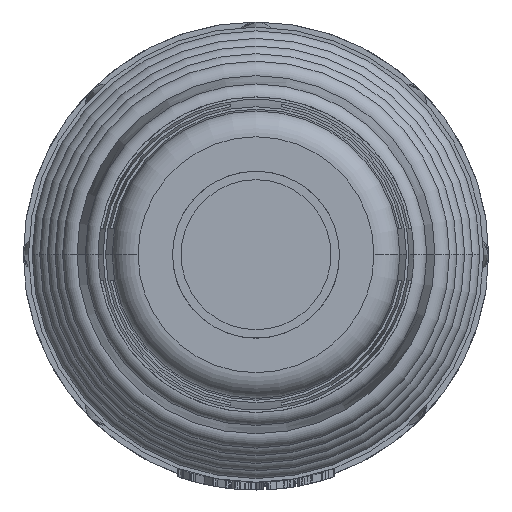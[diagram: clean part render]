
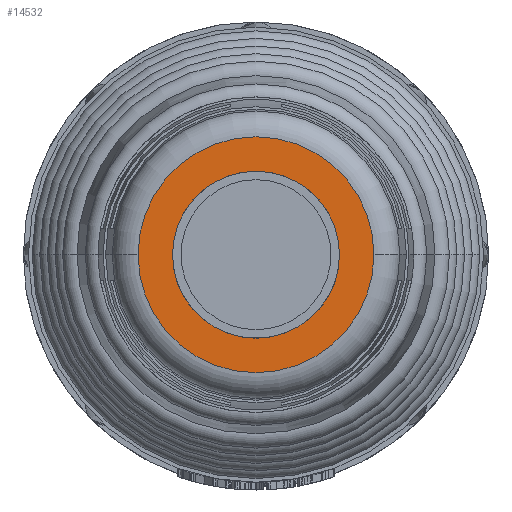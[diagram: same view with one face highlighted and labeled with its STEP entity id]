
A CAD part, front view. The second image highlights one B-rep face of the part: STEP entity #14532.
In plain terms, the highlighted planar face has unit normal (0, -1, 0).
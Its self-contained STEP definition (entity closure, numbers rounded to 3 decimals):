
#1142=CARTESIAN_POINT('',(0.,-54.5,0.));
#1143=DIRECTION('',(0.,-1.,0.));
#1144=DIRECTION('',(1.,0.,0.));
#1145=AXIS2_PLACEMENT_3D('',#1142,#1143,#1144);
#1147=CARTESIAN_POINT('',(0.,-54.5,0.));
#1148=DIRECTION('',(0.,-1.,0.));
#1149=DIRECTION('',(-1.,0.,0.));
#1150=AXIS2_PLACEMENT_3D('',#1147,#1148,#1149);
#1152=CARTESIAN_POINT('',(0.,-54.5,0.));
#1153=DIRECTION('',(0.,-1.,0.));
#1154=DIRECTION('',(-1.,0.,0.));
#1155=AXIS2_PLACEMENT_3D('',#1152,#1153,#1154);
#1157=CARTESIAN_POINT('',(0.,-54.5,0.));
#1158=DIRECTION('',(0.,-1.,0.));
#1159=DIRECTION('',(1.,0.,0.));
#1160=AXIS2_PLACEMENT_3D('',#1157,#1158,#1159);
#12220=CARTESIAN_POINT('',(4.562,-54.5,0.));
#12221=CARTESIAN_POINT('',(-4.562,-54.5,0.));
#12222=VERTEX_POINT('',#12220);
#12223=VERTEX_POINT('',#12221);
#12284=CARTESIAN_POINT('',(-3.23,-54.5,0.));
#12285=CARTESIAN_POINT('',(3.23,-54.5,0.));
#12286=VERTEX_POINT('',#12284);
#12287=VERTEX_POINT('',#12285);
#14516=CARTESIAN_POINT('',(0.,-54.5,0.));
#14517=DIRECTION('',(0.,-1.,0.));
#14518=DIRECTION('',(-1.,0.,0.));
#14519=AXIS2_PLACEMENT_3D('',#14516,#14517,#14518);
#14520=PLANE('',#14519);
#14522=ORIENTED_EDGE('',*,*,#14521,.F.);
#14524=ORIENTED_EDGE('',*,*,#14523,.F.);
#14525=EDGE_LOOP('',(#14522,#14524));
#14526=FACE_OUTER_BOUND('',#14525,.F.);
#14528=ORIENTED_EDGE('',*,*,#14527,.T.);
#14529=ORIENTED_EDGE('',*,*,#14470,.T.);
#14530=EDGE_LOOP('',(#14528,#14529));
#14531=FACE_BOUND('',#14530,.F.);
#14532=ADVANCED_FACE('',(#14526,#14531),#14520,.T.);
#1146=CIRCLE('',#1145,4.562);
#1151=CIRCLE('',#1150,4.562);
#1156=CIRCLE('',#1155,3.23);
#1161=CIRCLE('',#1160,3.23);
#14470=EDGE_CURVE('',#12287,#12286,#1161,.T.);
#14521=EDGE_CURVE('',#12222,#12223,#1146,.T.);
#14523=EDGE_CURVE('',#12223,#12222,#1151,.T.);
#14527=EDGE_CURVE('',#12286,#12287,#1156,.T.);
